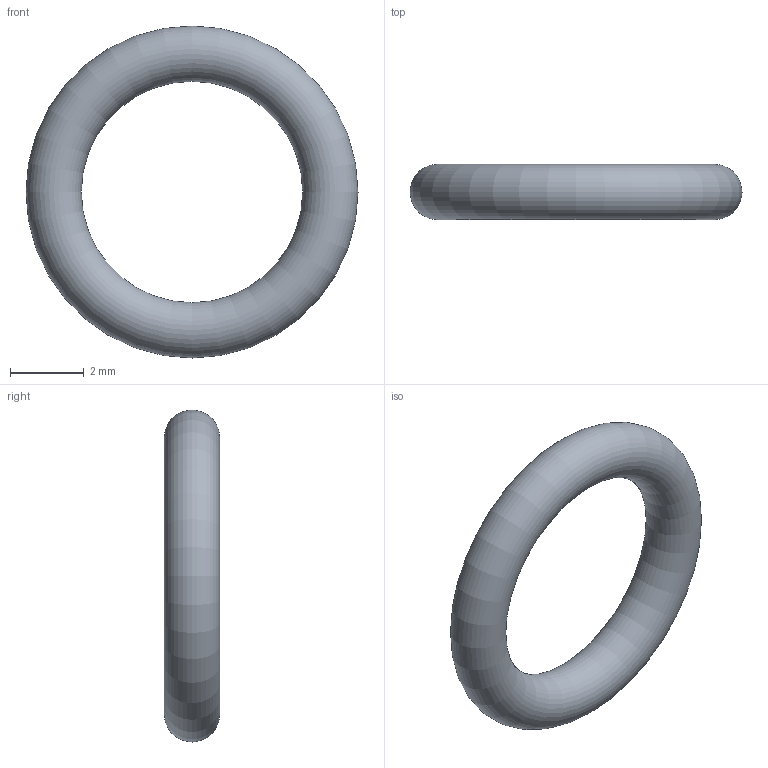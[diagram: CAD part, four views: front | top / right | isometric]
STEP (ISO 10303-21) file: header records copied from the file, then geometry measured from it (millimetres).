
FILE_DESCRIPTION( ( 'STEP AP203' ), '1' );
FILE_NAME( 'C:/Temp/Ganter_Step_05_03_2020/data/3_5/or638/O-Ring OR638-6.00-1.50-70.stp', '2020-03-12T13:44:17', ( 'License CC BY-ND 4.0' ), ( 'CADENAS' ), ' ', 'PARTsolutions', ' ' );
FILE_SCHEMA( ( 'CONFIG_CONTROL_DESIGN' ) );
Length unit declared in the file: millimetre
Products named in the file (1): _O-Ring OR638-6.00-1.50-70
Bounding box: 9 x 1.5 x 9 mm (x, y, z)
Volume: 41.6 mm3; surface area: 111 mm2
Topology: 1 solids, 1 shells, 1 faces, 2 edges, 1 vertices
Faces by surface type: torus 1
Entity records: 62 total; most frequent: CC_DESIGN_PERSON_AND_ORGANIZATION_ASSIGNMENT 5, PERSON_AND_ORGANIZATION_ROLE 4, DIRECTION 4, CARTESIAN_POINT 3, DATE_TIME_ROLE 2, CC_DESIGN_DATE_AND_TIME_ASSIGNMENT 2, AXIS2_PLACEMENT_3D 2, DIMENSIONAL_EXPONENTS 2
